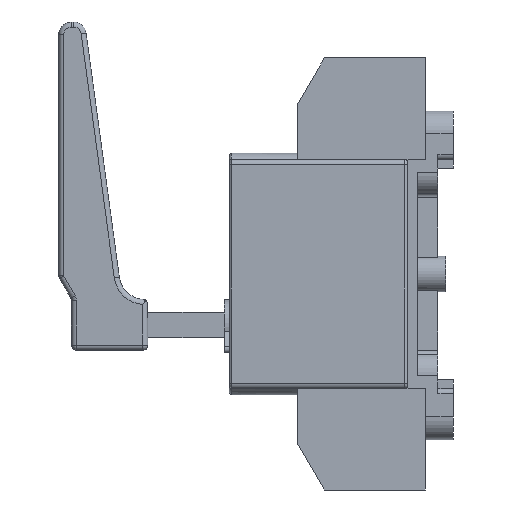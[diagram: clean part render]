
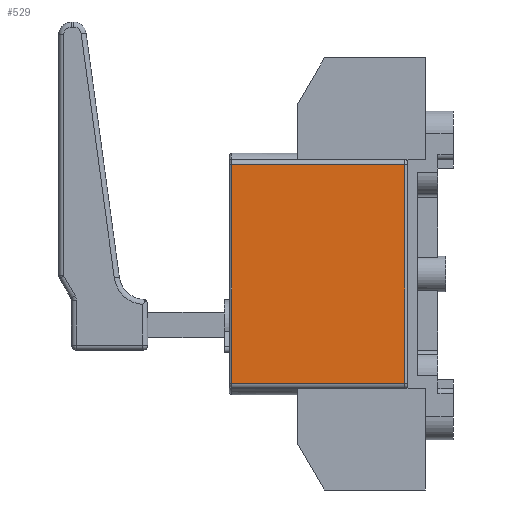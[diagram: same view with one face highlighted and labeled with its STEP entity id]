
A CAD part, left-side view. The second image highlights one B-rep face of the part: STEP entity #529.
In plain terms, the highlighted planar face has unit normal (-1, 0, 0).
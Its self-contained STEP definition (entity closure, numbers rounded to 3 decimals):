
#77=FACE_OUTER_BOUND('',#1552,.T.);
#529=ADVANCED_FACE('',(#77),#868,.F.);
#868=PLANE('',#6534);
#1552=EDGE_LOOP('',(#2163,#2164,#2165,#2166));
#2163=ORIENTED_EDGE('',*,*,#4572,.F.);
#2164=ORIENTED_EDGE('',*,*,#4573,.T.);
#2165=ORIENTED_EDGE('',*,*,#4569,.T.);
#2166=ORIENTED_EDGE('',*,*,#4574,.T.);
#3953=VERTEX_POINT('',#9550);
#3954=VERTEX_POINT('',#9551);
#3955=VERTEX_POINT('',#9556);
#3956=VERTEX_POINT('',#9557);
#4569=EDGE_CURVE('',#3953,#3954,#5414,.T.);
#4572=EDGE_CURVE('',#3955,#3956,#5415,.T.);
#4573=EDGE_CURVE('',#3955,#3953,#5416,.T.);
#4574=EDGE_CURVE('',#3954,#3956,#5417,.T.);
#5414=LINE('',#9549,#5977);
#5415=LINE('',#9555,#5978);
#5416=LINE('',#9558,#5979);
#5417=LINE('',#9559,#5980);
#5977=VECTOR('',#7413,1.);
#5978=VECTOR('',#7420,1.);
#5979=VECTOR('',#7421,1.);
#5980=VECTOR('',#7422,1.);
#6534=AXIS2_PLACEMENT_3D('',#9560,#7423,#7424);
#7413=DIRECTION('',(0.,-1.,0.));
#7420=DIRECTION('',(0.,-1.,0.));
#7421=DIRECTION('',(0.,0.,-1.));
#7422=DIRECTION('',(0.,0.,1.));
#7423=DIRECTION('',(1.,0.,0.));
#7424=DIRECTION('',(0.,0.,-1.));
#9549=CARTESIAN_POINT('',(-41.,35.,-43.));
#9550=CARTESIAN_POINT('',(-41.,69.,-43.));
#9551=CARTESIAN_POINT('',(-41.,1.,-43.));
#9555=CARTESIAN_POINT('',(-41.,35.,43.));
#9556=CARTESIAN_POINT('',(-41.,69.,43.));
#9557=CARTESIAN_POINT('',(-41.,1.,43.));
#9558=CARTESIAN_POINT('',(-41.,69.,-43.));
#9559=CARTESIAN_POINT('',(-41.,1.,-43.));
#9560=CARTESIAN_POINT('',(-41.,35.,-43.));
